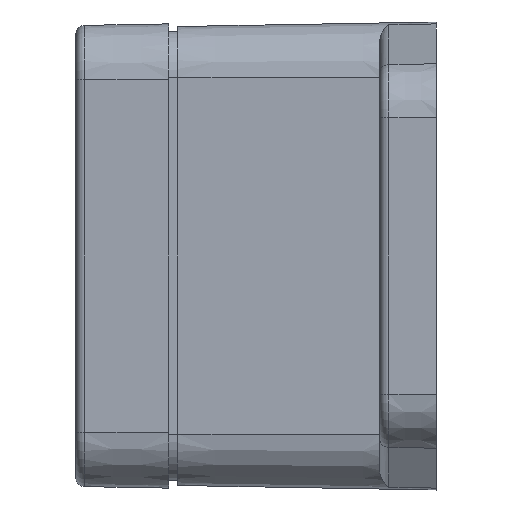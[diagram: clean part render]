
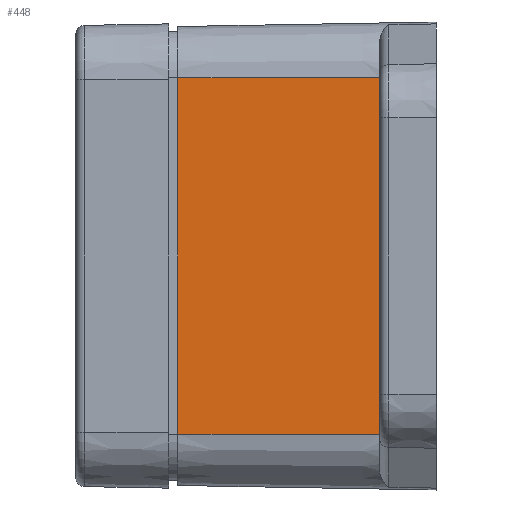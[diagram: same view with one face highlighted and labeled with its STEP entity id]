
A CAD part, left-side view. The second image highlights one B-rep face of the part: STEP entity #448.
In plain terms, the highlighted planar face has unit normal (-1, 0.018, 0).
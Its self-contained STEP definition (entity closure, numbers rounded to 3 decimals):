
#8 = CARTESIAN_POINT ( 'NONE',  ( -25.667, -1., 19.15 ) ) ;
#448 = ADVANCED_FACE ( 'NONE', ( #6308 ), #1118, .T. ) ;
#515 = DIRECTION ( 'NONE',  ( 0.017, 1., 0. ) ) ;
#1118 = PLANE ( 'NONE',  #4361 ) ;
#1879 = VERTEX_POINT ( 'NONE', #3982 ) ;
#3033 = VERTEX_POINT ( 'NONE', #8 ) ;
#3791 = VECTOR ( 'NONE', #13118, 1000. ) ;
#3982 = CARTESIAN_POINT ( 'NONE',  ( -26.046, -22.7, -19.15 ) ) ;
#4291 = CARTESIAN_POINT ( 'NONE',  ( -25.65, 0., 19.15 ) ) ;
#4361 = AXIS2_PLACEMENT_3D ( 'NONE', #10107, #22152, #16773 ) ;
#4432 = ORIENTED_EDGE ( 'NONE', *, *, #6646, .F. ) ;
#5397 = EDGE_LOOP ( 'NONE', ( #9521, #8383, #4432, #17101 ) ) ;
#5563 = LINE ( 'NONE', #5908, #12287 ) ;
#5908 = CARTESIAN_POINT ( 'NONE',  ( -25.65, 0., -19.15 ) ) ;
#6125 = VERTEX_POINT ( 'NONE', #7306 ) ;
#6308 = FACE_OUTER_BOUND ( 'NONE', #5397, .T. ) ;
#6627 = DIRECTION ( 'NONE',  ( 0., 0., -1. ) ) ;
#6646 = EDGE_CURVE ( 'NONE', #1879, #6125, #5563, .T. ) ;
#7306 = CARTESIAN_POINT ( 'NONE',  ( -25.667, -1., -19.15 ) ) ;
#7857 = LINE ( 'NONE', #4291, #11578 ) ;
#8383 = ORIENTED_EDGE ( 'NONE', *, *, #14933, .T. ) ;
#9521 = ORIENTED_EDGE ( 'NONE', *, *, #22190, .T. ) ;
#10107 = CARTESIAN_POINT ( 'NONE',  ( -25.65, 0., 19.15 ) ) ;
#11578 = VECTOR ( 'NONE', #515, 1000. ) ;
#11587 = LINE ( 'NONE', #11818, #16542 ) ;
#11818 = CARTESIAN_POINT ( 'NONE',  ( -26.046, -22.7, 19.15 ) ) ;
#12287 = VECTOR ( 'NONE', #18089, 1000. ) ;
#12782 = CARTESIAN_POINT ( 'NONE',  ( -25.667, -1., 19.15 ) ) ;
#13118 = DIRECTION ( 'NONE',  ( 0., 0., -1. ) ) ;
#14384 = LINE ( 'NONE', #12782, #3791 ) ;
#14933 = EDGE_CURVE ( 'NONE', #3033, #6125, #14384, .T. ) ;
#16372 = EDGE_CURVE ( 'NONE', #18505, #1879, #11587, .T. ) ;
#16542 = VECTOR ( 'NONE', #6627, 1000. ) ;
#16773 = DIRECTION ( 'NONE',  ( -0.017, -1., 0. ) ) ;
#17101 = ORIENTED_EDGE ( 'NONE', *, *, #16372, .F. ) ;
#18089 = DIRECTION ( 'NONE',  ( 0.017, 1., 0. ) ) ;
#18505 = VERTEX_POINT ( 'NONE', #22656 ) ;
#22152 = DIRECTION ( 'NONE',  ( -1., 0.017, 0. ) ) ;
#22190 = EDGE_CURVE ( 'NONE', #18505, #3033, #7857, .T. ) ;
#22656 = CARTESIAN_POINT ( 'NONE',  ( -26.046, -22.7, 19.15 ) ) ;
